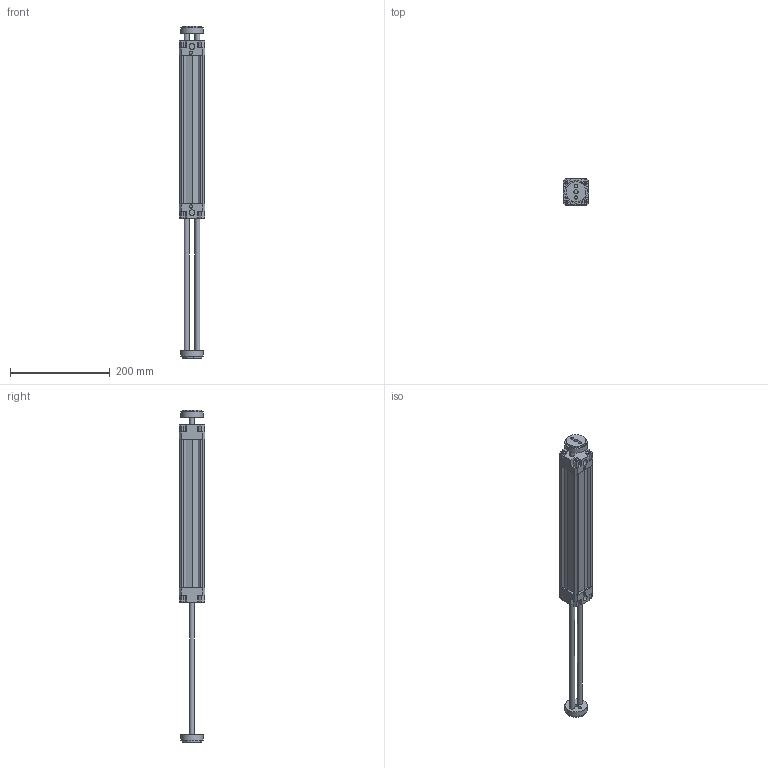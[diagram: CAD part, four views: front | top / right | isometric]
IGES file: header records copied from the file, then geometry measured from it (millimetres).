
Global section: file name: 132#_040_0250_06; native system: Autodesk Inventor 2014; preprocessor: unknown; author: A. Manieri; date: 20161006.154545; units: millimetre
Bounding box: 52 x 52 x 665 mm (x, y, z)
Volume: 531680.9 mm3; surface area: 186709.7 mm2
Topology: 2 solids, 2 shells, 190 faces, 518 edges, 354 vertices
Faces by surface type: bspline 190
